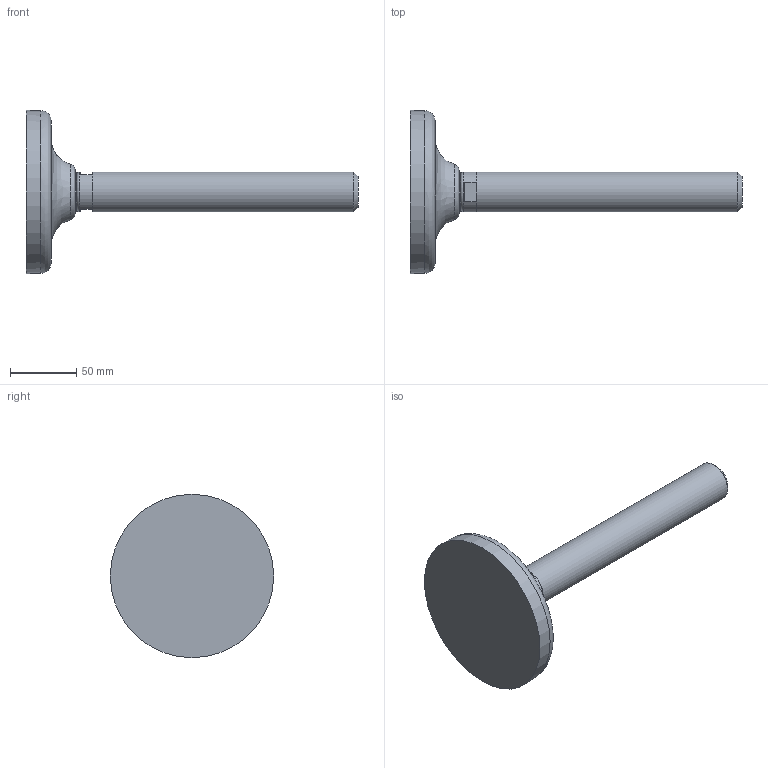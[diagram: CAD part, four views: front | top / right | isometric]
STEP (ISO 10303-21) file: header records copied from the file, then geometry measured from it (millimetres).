
FILE_DESCRIPTION(('STEP AP203'),'2;1');
FILE_NAME('12918.stp','2015-09-30T07:14:41',(''),(''),'2008.1.107','THINKDESIGN','');
FILE_SCHEMA(('CONFIG_CONTROL_DESIGN'));
Length unit declared in the file: millimetre
Bounding box: 250.03 x 123 x 123 mm (x, y, z)
Volume: 404353.1 mm3; surface area: 54918.1 mm2
Topology: 4 solids, 4 shells, 22 faces, 48 edges, 35 vertices
Faces by surface type: plane 13, bspline 6, cylinder 3
Full cylindrical faces by diameter (mm): 30 x3
Entity records: 1200 total; most frequent: CARTESIAN_POINT 601, DIRECTION 115, ORIENTED_EDGE 96, AXIS2_PLACEMENT_3D 51, EDGE_CURVE 48, VERTEX_POINT 35, CIRCLE 35, EDGE_LOOP 23
